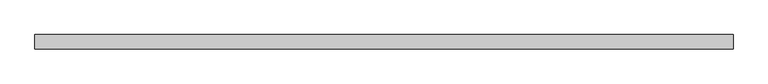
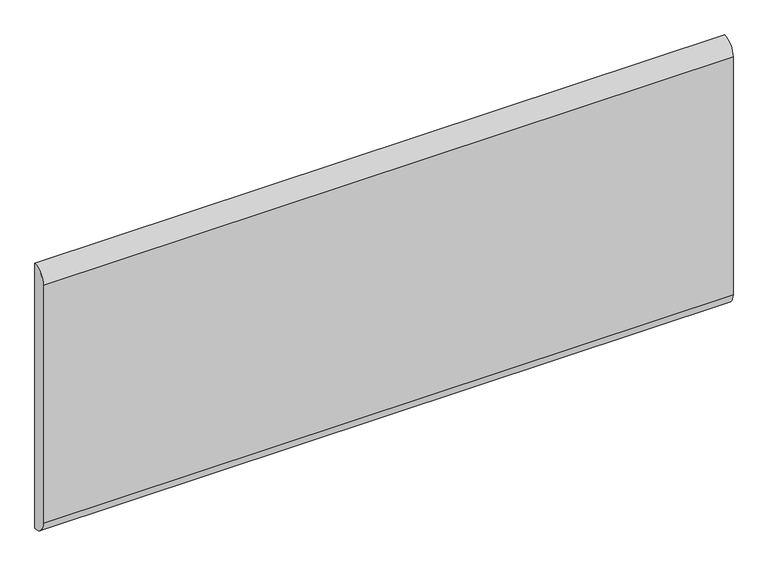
"""IFC4 building model written with IfcOpenShell, lengths in millimetres: furniture geometry."""

from ifc_helpers import new_model, si_unit, point, frame, frame_2d, origin, place, context, project, spatial, polyline, circle_curve, trimmed, segment, composite_curve, outline, extrude, source, transform, mapped, element, save


def furniture_83360586(model_context):
    return source(origin(), model_context, "Body", "SweptSolid", [
        extrude(outline(composite_curve([segment(trimmed(circle_curve(frame_2d((12.7, 1473.2)), 25.4), [point((12.7, 1447.8))], [point((-12.7, 1473.2))], False, "CARTESIAN"), True, "CONTINUOUS"), segment(polyline([(-12.7, 1473.2), (-12.7, 1917.7)]), True, "CONTINUOUS"), segment(trimmed(circle_curve(frame_2d((12.7, 1917.7)), 25.4), [point((-12.7, 1917.7))], [point((12.7, 1943.1))], False, "CARTESIAN"), True, "CONTINUOUS"), segment(polyline([(12.7, 1943.1), (12.7, 1447.8)]), True, "CONTINUOUS")], self_intersect=False)), frame((-609.6, 0.0, 0.0), z_axis=(1.0, 0.0, 0.0), x_axis=(0.0, 1.0, 0.0)), (0.0, 0.0, 1.0), 1219.2),
    ])


if __name__ == "__main__":
    model = new_model("IFC4")
    model_context = context("Model", 3, world=origin())
    ifc_project = project(units=[si_unit("LENGTHUNIT", "METRE", prefix="MILLI")], contexts=[model_context])
    site = spatial("IfcSite", under=ifc_project)
    building = spatial("IfcBuilding", under=site)
    placement = place(None, origin())
    furniture_shape = furniture_83360586(model_context)
    element("IfcFurniture", 1, ObjectType="HermanMiller_ActionOffice_A3410_B-StyleTackboard : 20\"H x 48\"W", at=placement, inside=building, context=model_context, shape_type="MappedRepresentation", body=[
        mapped(furniture_shape, transform((0.0, 0.0, 0.0), x_axis=(1.0, 0.0, 0.0), y_axis=(0.0, 1.0, 0.0), z_axis=(0.0, 0.0, 1.0))),
    ])
    save(model, "model.ifc")
